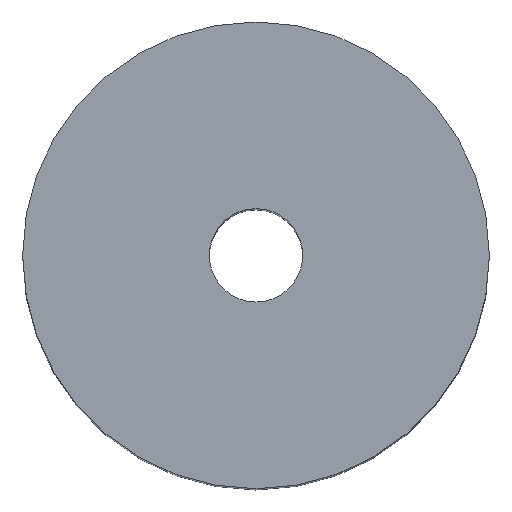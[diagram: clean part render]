
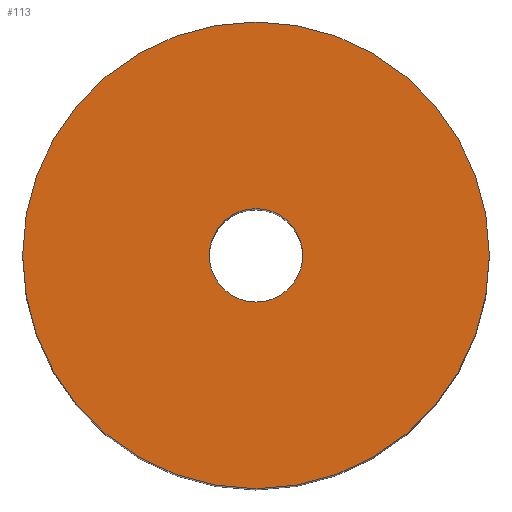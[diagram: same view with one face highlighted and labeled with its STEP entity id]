
A CAD part, top view. The second image highlights one B-rep face of the part: STEP entity #113.
In plain terms, the highlighted planar face has unit normal (0, 0, 1).
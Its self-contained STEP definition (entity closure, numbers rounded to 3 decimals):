
#113=ADVANCED_FACE('',(#121,#122),#119,.T.);
#119=PLANE('',#190);
#121=FACE_BOUND('',#125,.T.);
#122=FACE_BOUND('',#126,.T.);
#125=EDGE_LOOP('',(#133,#134));
#126=EDGE_LOOP('',(#135,#136));
#133=ORIENTED_EDGE('',*,*,#165,.T.);
#134=ORIENTED_EDGE('',*,*,#166,.T.);
#135=ORIENTED_EDGE('',*,*,#167,.F.);
#136=ORIENTED_EDGE('',*,*,#168,.F.);
#157=VERTEX_POINT('',#236);
#158=VERTEX_POINT('',#237);
#159=VERTEX_POINT('',#240);
#160=VERTEX_POINT('',#241);
#165=EDGE_CURVE('',#157,#158,#177,.T.);
#166=EDGE_CURVE('',#158,#157,#178,.T.);
#167=EDGE_CURVE('',#159,#160,#179,.T.);
#168=EDGE_CURVE('',#160,#159,#180,.T.);
#177=CIRCLE('',#186,35.);
#178=CIRCLE('',#187,35.);
#179=CIRCLE('',#188,7.);
#180=CIRCLE('',#189,7.);
#186=AXIS2_PLACEMENT_3D('',#235,#202,#203);
#187=AXIS2_PLACEMENT_3D('',#238,#204,#205);
#188=AXIS2_PLACEMENT_3D('',#239,#206,#207);
#189=AXIS2_PLACEMENT_3D('',#242,#208,#209);
#190=AXIS2_PLACEMENT_3D('',#243,#210,#211);
#202=DIRECTION('',(0.,0.,1.));
#203=DIRECTION('',(0.,1.,0.));
#204=DIRECTION('',(0.,0.,1.));
#205=DIRECTION('',(0.,-1.,0.));
#206=DIRECTION('',(0.,0.,1.));
#207=DIRECTION('',(0.,-1.,0.));
#208=DIRECTION('',(0.,0.,1.));
#209=DIRECTION('',(0.,1.,0.));
#210=DIRECTION('',(0.,0.,1.));
#211=DIRECTION('',(0.,1.,0.));
#235=CARTESIAN_POINT('',(0.,0.,110.));
#236=CARTESIAN_POINT('',(-35.,0.,110.));
#237=CARTESIAN_POINT('',(35.,0.,110.));
#238=CARTESIAN_POINT('',(0.,0.,110.));
#239=CARTESIAN_POINT('',(0.,0.,110.));
#240=CARTESIAN_POINT('',(7.,0.,110.));
#241=CARTESIAN_POINT('',(-7.,0.,110.));
#242=CARTESIAN_POINT('',(0.,0.,110.));
#243=CARTESIAN_POINT('',(0.,0.,110.));
